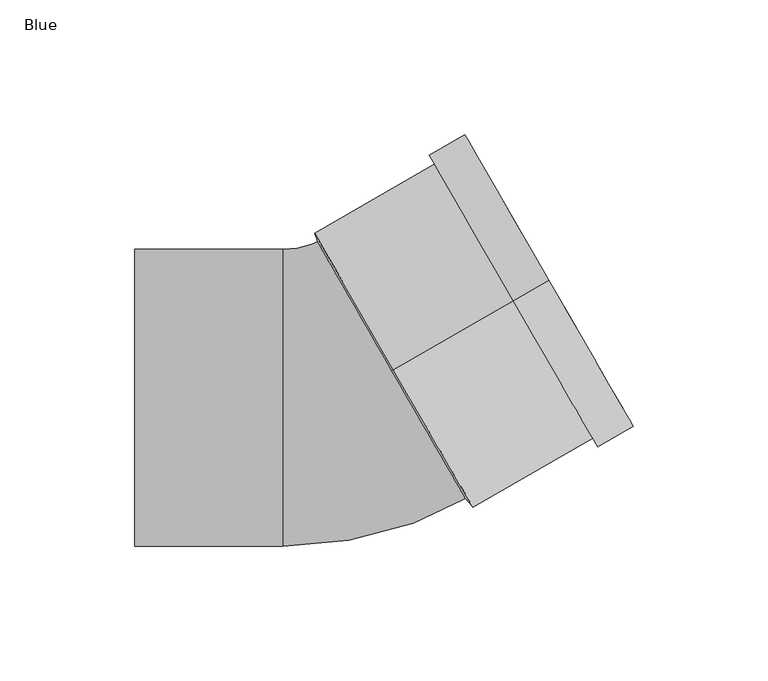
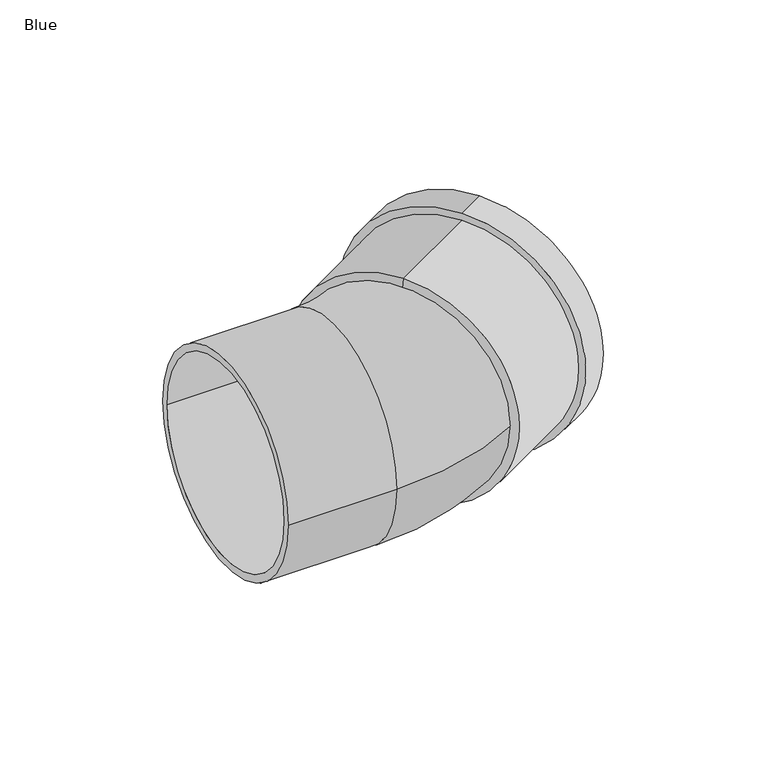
"""IFC4 building model written with IfcOpenShell, lengths in millimetres: pipe fitting geometry, AWADUKT PP SN10 Bend : Blue."""

from ifc_helpers import new_model, si_unit, point, frame, origin, place, context, project, spatial, polyline, circle_curve, ellipse_curve, trimmed, source, transform, mapped, element, save
from ifc_brep_helpers import plane_surface, cylinder_surface, revolved_surface, advanced_brep


def blue_8c50e030(model_context):
    return source(origin(), model_context, "Body", "AdvancedBrep", [
        advanced_brep(
        [(62.3538291, 36.0, 58.8), (62.3538291, 36.0, -58.8), (17.9106731, 10.340732, -58.8), (17.9106731, 10.340732, 58.8), (75.5174152, 43.6, 62.6), (75.5174152, 43.6, -62.6), (62.3538291, 36.0, -62.6), (62.3538291, 36.0, 62.6), (72.2265187, 41.7, 55.0), (72.2265187, 41.7, -55.0), (75.5174152, 43.6, -55.0), (75.5174152, 43.6, 55.0), (65.6447256, 37.9, 58.8), (65.6447256, 37.9, -58.8), (72.2265187, 41.7, -58.8), (72.2265187, 41.7, 58.8), (20.6720632, 11.9350213, 55.0), (20.6720632, 11.9350213, -55.0), (65.6447256, 37.9, -55.0), (65.6447256, 37.9, 55.0), (20.0917894, 11.6, 51.2), (20.0917894, 11.6, -51.2), (16.7501254, 9.6706894, 51.2), (16.7501254, 9.6706894, -51.2)],
        [
            (0, 1, circle_curve(frame((62.3538291, 36.0, 0.0), z_axis=(-0.866025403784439, -0.4999999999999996, 0.0), x_axis=(0.0, 0.0, -1.0)), 58.8)),
            (1, 2),
            (2, 3, circle_curve(frame((17.9106731, 10.340732, 0.0), z_axis=(0.866025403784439, 0.4999999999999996, 0.0), x_axis=(0.0, 0.0, -1.0)), 58.8)),
            (3, 0),
            (4, 5, circle_curve(frame((75.5174152, 43.6, 0.0), z_axis=(-0.866025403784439, -0.4999999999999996, 0.0), x_axis=(0.0, 0.0, -1.0)), 62.6)),
            (5, 6),
            (6, 7, circle_curve(frame((62.3538291, 36.0, 0.0), z_axis=(0.866025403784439, 0.4999999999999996, 0.0), x_axis=(0.0, 0.0, -1.0)), 62.6)),
            (7, 4),
            (8, 9, circle_curve(frame((72.2265187, 41.7, 0.0), z_axis=(-0.866025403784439, -0.4999999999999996, 0.0), x_axis=(0.0, 0.0, -1.0)), 55.0)),
            (9, 10),
            (10, 11, circle_curve(frame((75.5174152, 43.6, 0.0), z_axis=(0.866025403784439, 0.4999999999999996, 0.0), x_axis=(0.0, 0.0, -1.0)), 55.0)),
            (11, 8),
            (12, 13, circle_curve(frame((65.6447256, 37.9, 0.0), z_axis=(-0.866025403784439, -0.4999999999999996, 0.0), x_axis=(0.0, 0.0, -1.0)), 58.8)),
            (13, 14),
            (14, 15, circle_curve(frame((72.2265187, 41.7, 0.0), z_axis=(0.866025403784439, 0.4999999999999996, 0.0), x_axis=(0.0, 0.0, -1.0)), 58.8)),
            (15, 12),
            (16, 17, circle_curve(frame((20.6720632, 11.9350213, 0.0), z_axis=(-0.866025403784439, -0.4999999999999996, 0.0), x_axis=(0.0, 0.0, -1.0)), 55.0)),
            (17, 18),
            (18, 19, circle_curve(frame((65.6447256, 37.9, 0.0), z_axis=(0.866025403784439, 0.4999999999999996, 0.0), x_axis=(0.0, 0.0, -1.0)), 55.0)),
            (19, 16),
            (20, 21, circle_curve(frame((20.0917894, 11.6, 0.0), z_axis=(-0.866025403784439, -0.4999999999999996, 0.0), x_axis=(0.0, 0.0, -1.0)), 51.2)),
            (21, 17),
            (16, 20),
            (22, 23, circle_curve(frame((16.7501254, 9.6706894, 0.0), z_axis=(-0.866025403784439, -0.4999999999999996, 0.0), x_axis=(0.0, 0.0, -1.0)), 51.2)),
            (23, 21),
            (20, 22),
            (2, 23),
            (22, 3),
            (1, 0, circle_curve(frame((62.3538291, 36.0, 0.0), z_axis=(-0.866025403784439, -0.4999999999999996, 0.0), x_axis=(0.0, 0.0, 1.0)), 58.8)),
            (3, 2, circle_curve(frame((17.9106731, 10.340732, 0.0), z_axis=(0.866025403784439, 0.4999999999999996, 0.0), x_axis=(0.0, 0.0, 1.0)), 58.8)),
            (6, 7, circle_curve(frame((62.3538291, 36.0, 0.0), z_axis=(-0.866025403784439, -0.4999999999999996, 0.0), x_axis=(0.0, 0.0, 1.0)), 62.6)),
            (5, 4, circle_curve(frame((75.5174152, 43.6, 0.0), z_axis=(-0.866025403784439, -0.4999999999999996, 0.0), x_axis=(0.0, 0.0, 1.0)), 62.6)),
            (10, 11, circle_curve(frame((75.5174152, 43.6, 0.0), z_axis=(-0.866025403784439, -0.4999999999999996, 0.0), x_axis=(0.0, 0.0, 1.0)), 55.0)),
            (9, 8, circle_curve(frame((72.2265187, 41.7, 0.0), z_axis=(-0.866025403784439, -0.4999999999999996, 0.0), x_axis=(0.0, 0.0, 1.0)), 55.0)),
            (14, 15, circle_curve(frame((72.2265187, 41.7, 0.0), z_axis=(-0.866025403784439, -0.4999999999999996, 0.0), x_axis=(0.0, 0.0, 1.0)), 58.8)),
            (13, 12, circle_curve(frame((65.6447256, 37.9, 0.0), z_axis=(-0.866025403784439, -0.4999999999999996, 0.0), x_axis=(0.0, 0.0, 1.0)), 58.8)),
            (18, 19, circle_curve(frame((65.6447256, 37.9, 0.0), z_axis=(-0.866025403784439, -0.4999999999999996, 0.0), x_axis=(0.0, 0.0, 1.0)), 55.0)),
            (17, 16, circle_curve(frame((20.6720632, 11.9350213, 0.0), z_axis=(-0.866025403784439, -0.4999999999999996, 0.0), x_axis=(0.0, 0.0, 1.0)), 55.0)),
            (21, 20, circle_curve(frame((20.0917894, 11.6, 0.0), z_axis=(-0.866025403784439, -0.4999999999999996, 0.0), x_axis=(0.0, 0.0, 1.0)), 51.2)),
            (23, 22, circle_curve(frame((16.7501254, 9.6706894, 0.0), z_axis=(-0.866025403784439, -0.4999999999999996, 0.0), x_axis=(0.0, 0.0, 1.0)), 51.2)),
        ],
        [
            cylinder_surface(frame((20.0917894, 11.6, 0.0), z_axis=(0.866025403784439, 0.4999999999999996, 0.0), x_axis=(0.0, 0.0, -1.0)), 58.8),
            cylinder_surface(frame((20.0917894, 11.6, 0.0), z_axis=(0.866025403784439, 0.4999999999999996, 0.0), x_axis=(0.0, 0.0, -1.0)), 62.6),
            revolved_surface(polyline([(75.51741521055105, 43.599999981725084, -55.0), (72.22651870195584, 41.69999999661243, -55.0)]), (20.0917894, 11.6, 0.0), (0.866025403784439, 0.4999999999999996, 0.0)),
            revolved_surface(polyline([(72.22651870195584, 41.69999999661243, -58.8), (65.6447256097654, 37.89999998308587, -58.8)]), (20.0917894, 11.6, 0.0), (0.866025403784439, 0.4999999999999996, 0.0)),
            revolved_surface(polyline([(65.6447256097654, 37.89999998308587, -55.0), (20.672063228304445, 11.935021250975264, -55.0)]), (20.0917894, 11.6, 0.0), (0.866025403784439, 0.4999999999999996, 0.0)),
            revolved_surface(polyline([(20.6720632, 11.9350213, -55.0), (20.0917894, 11.6, -51.2)]), (20.0917894, 11.6, 0.0), (0.866025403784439, 0.4999999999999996, 0.0)),
            revolved_surface(polyline([(20.0917894, 11.6, -51.2), (16.7501254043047, 9.670689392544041, -51.2)]), (20.0917894, 11.6, 0.0), (0.866025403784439, 0.4999999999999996, 0.0)),
            revolved_surface(polyline([(16.7501254, 9.6706894, -51.2), (17.9106731, 10.340732, -58.8)]), (20.0917894, 11.6, 0.0), (0.866025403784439, 0.4999999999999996, 0.0)),
            cylinder_surface(frame((20.0917894, 11.6, 0.0), z_axis=(0.866025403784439, 0.4999999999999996, 0.0), x_axis=(0.0, 0.0, 1.0)), 58.8),
            plane_surface(frame((62.3538291, 36.0, 0.0), z_axis=(-0.866025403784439, -0.4999999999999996, 0.0), x_axis=(0.0, 0.0, 1.0))),
            cylinder_surface(frame((20.0917894, 11.6, 0.0), z_axis=(0.866025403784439, 0.4999999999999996, 0.0), x_axis=(0.0, 0.0, 1.0)), 62.6),
            plane_surface(frame((75.5174152, 43.6, 0.0), z_axis=(0.866025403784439, 0.4999999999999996, 0.0), x_axis=(0.0, 0.0, 1.0))),
            revolved_surface(polyline([(75.51741521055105, 43.599999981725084, 55.0), (72.22651870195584, 41.69999999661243, 55.0)]), (20.0917894, 11.6, 0.0), (0.866025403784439, 0.4999999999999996, 0.0)),
            plane_surface(frame((72.2265187, 41.7, 0.0), z_axis=(-0.866025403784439, -0.4999999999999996, 0.0), x_axis=(0.0, 0.0, 1.0))),
            revolved_surface(polyline([(72.22651870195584, 41.69999999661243, 58.8), (65.6447256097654, 37.89999998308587, 58.8)]), (20.0917894, 11.6, 0.0), (0.866025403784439, 0.4999999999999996, 0.0)),
            plane_surface(frame((65.6447256, 37.9, 0.0), z_axis=(0.866025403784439, 0.4999999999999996, 0.0), x_axis=(0.0, 0.0, 1.0))),
            revolved_surface(polyline([(65.6447256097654, 37.89999998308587, 55.0), (20.672063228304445, 11.935021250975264, 55.0)]), (20.0917894, 11.6, 0.0), (0.866025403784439, 0.4999999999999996, 0.0)),
            revolved_surface(polyline([(20.6720632, 11.9350213, 55.0), (20.0917894, 11.6, 51.2)]), (20.0917894, 11.6, 0.0), (0.866025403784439, 0.4999999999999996, 0.0)),
            revolved_surface(polyline([(20.0917894, 11.6, 51.2), (16.7501254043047, 9.670689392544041, 51.2)]), (20.0917894, 11.6, 0.0), (0.866025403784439, 0.4999999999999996, 0.0)),
            revolved_surface(polyline([(16.7501254, 9.6706894, 51.2), (17.9106731, 10.340732, 58.8)]), (20.0917894, 11.6, 0.0), (0.866025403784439, 0.4999999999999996, 0.0)),
        ],
        [
            (0, [[1, 2, 3, 4]]),
            (1, [[5, 6, 7, 8]]),
            (2, [[9, 10, 11, 12]]),
            (3, [[13, 14, 15, 16]]),
            (4, [[17, 18, 19, 20]]),
            (5, [[21, 22, -17, 23]]),
            (6, [[24, 25, -21, 26]]),
            (7, [[-3, 27, -24, 28]]),
            (8, [[29, -4, 30, -2]]),
            (9, [[31, -7], [-29, -1]]),
            (10, [[32, -8, -31, -6]]),
            (11, [[-32, -5], [33, -11]]),
            (12, [[34, -12, -33, -10]]),
            (13, [[35, -15], [-34, -9]]),
            (14, [[36, -16, -35, -14]]),
            (15, [[-36, -13], [37, -19]]),
            (16, [[38, -20, -37, -18]]),
            (17, [[39, -23, -38, -22]]),
            (18, [[40, -26, -39, -25]]),
            (19, [[-30, -28, -40, -27]]),
        ],
    ),
        advanced_brep(
        [(-78.0, -55.0, 0.0), (-78.0, 55.0, 0.0), (-78.0, -51.2, 0.0), (-78.0, 51.2, 0.0), (47.5917894, -36.0313972, 0.0), (-7.4082106, 59.2313972, 0.0), (45.6917894, -32.7405007, 0.0), (-5.5082106, 55.9405007, 0.0), (-23.2, -51.2, 0.0), (-23.2, 51.2, 0.0), (-23.2, -55.0, 0.0), (-23.2, 55.0, 0.0)],
        [
            (0, 1, circle_curve(frame((-78.0, 0.0, 0.0), z_axis=(-1.0, 0.0, 0.0), x_axis=(0.0, 1.0, 0.0)), 55.0)),
            (1, 0, circle_curve(frame((-78.0, 0.0, 0.0), z_axis=(-1.0, 0.0, 0.0), x_axis=(0.0, 1.0, 0.0)), 55.0)),
            (2, 3, circle_curve(frame((-78.0, 0.0, 0.0), z_axis=(1.0, 0.0, 0.0), x_axis=(0.0, 1.0, 0.0)), 51.2)),
            (3, 2, circle_curve(frame((-78.0, 0.0, 0.0), z_axis=(1.0, 0.0, 0.0), x_axis=(0.0, 1.0, 0.0)), 51.2)),
            (4, 5, circle_curve(frame((20.0917894, 11.6, 0.0), z_axis=(0.8660254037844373, 0.5000000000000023, 0.0), x_axis=(-0.5000000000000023, 0.8660254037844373, 0.0)), 55.0)),
            (5, 4, circle_curve(frame((20.0917894, 11.6, 0.0), z_axis=(0.8660254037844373, 0.5000000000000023, 0.0), x_axis=(-0.5000000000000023, 0.8660254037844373, 0.0)), 55.0)),
            (6, 7, circle_curve(frame((20.0917894, 11.6, 0.0), z_axis=(-0.8660254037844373, -0.5000000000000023, 0.0), x_axis=(-0.5000000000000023, 0.8660254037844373, 0.0)), 51.2)),
            (7, 6, circle_curve(frame((20.0917894, 11.6, 0.0), z_axis=(-0.8660254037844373, -0.5000000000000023, 0.0), x_axis=(-0.5000000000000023, 0.8660254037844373, 0.0)), 51.2)),
            (2, 8),
            (8, 9, circle_curve(frame((-23.2, 0.0, 0.0), z_axis=(1.0, 0.0, 0.0), x_axis=(0.0, 1.0, 0.0)), 51.2)),
            (9, 3),
            (9, 8, circle_curve(frame((-23.2, 0.0, 0.0), z_axis=(1.0, 0.0, 0.0), x_axis=(0.0, 1.0, 0.0)), 51.2)),
            (0, 10),
            (10, 11, circle_curve(frame((-23.2, 0.0, 0.0), z_axis=(-1.0, 0.0, 0.0), x_axis=(0.0, 1.0, 0.0)), 55.0)),
            (11, 1),
            (11, 10, circle_curve(frame((-23.2, 0.0, 0.0), z_axis=(-1.0, 0.0, 0.0), x_axis=(0.0, 1.0, 0.0)), 55.0)),
            (7, 9, circle_curve(frame((-23.2, 86.5835787, 0.0), z_axis=(0.0, 0.0, -1.0), x_axis=(0.0, -1.0, 0.0)), 35.3835787)),
            (8, 6, circle_curve(frame((-23.2, 86.5835787, 0.0), z_axis=(0.0, 0.0, 1.0), x_axis=(0.0, -1.0, 0.0)), 137.7835787)),
            (5, 11, circle_curve(frame((-23.2, 86.5835787, 0.0), z_axis=(0.0, 0.0, -1.0), x_axis=(0.0, -1.0, 0.0)), 31.5835787)),
            (10, 4, circle_curve(frame((-23.2, 86.5835787, 0.0), z_axis=(0.0, 0.0, 1.0), x_axis=(0.0, -1.0, 0.0)), 141.5835787)),
        ],
        [
            plane_surface(frame((-78.0, 0.0, 0.0), z_axis=(-1.0, 0.0, 0.0), x_axis=(0.0, 0.0, 1.0))),
            plane_surface(frame((20.0917894, 11.6, 0.0), z_axis=(0.8660254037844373, 0.5000000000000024, 0.0), x_axis=(0.0, 0.0, 1.0))),
            revolved_surface(polyline([(-23.200000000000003, 51.2, 0.0), (-78.0, 51.2, 0.0)]), (-78.0, 0.0, 0.0), (1.0, 0.0, 0.0)),
            cylinder_surface(frame((-78.0, 0.0, 0.0), z_axis=(-1.0, 0.0, 0.0), x_axis=(0.0, 1.0, 0.0)), 55.0),
            revolved_surface(trimmed(ellipse_curve(frame((-23.2, 0.0, 0.0), z_axis=(1.0, 0.0, 0.0), x_axis=(0.0, 1.0, 0.0)), 51.2, 51.2), [point((-23.2, -51.2, 0.0))], [point((-23.2, 51.2, 0.0))], True, "CARTESIAN"), (-23.2, 86.5835787, 0.0), (0.0, 0.0, 1.0)),
            revolved_surface(trimmed(ellipse_curve(frame((-23.2, 0.0, 0.0), z_axis=(1.0, 0.0, 0.0), x_axis=(0.0, 1.0, 0.0)), 51.2, 51.2), [point((-23.2, 51.2, 0.0))], [point((-23.2, -51.2, 0.0))], True, "CARTESIAN"), (-23.2, 86.5835787, 0.0), (0.0, 0.0, 1.0)),
            revolved_surface(trimmed(ellipse_curve(frame((-23.2, 0.0, 0.0), z_axis=(-1.0, 0.0, 0.0), x_axis=(0.0, 1.0, 0.0)), 55.0, 55.0), [point((-23.2, -55.0, 0.0))], [point((-23.2, 55.0, 0.0))], True, "CARTESIAN"), (-23.2, 86.5835787, 0.0), (0.0, 0.0, 1.0)),
            revolved_surface(trimmed(ellipse_curve(frame((-23.2, 0.0, 0.0), z_axis=(-1.0, 0.0, 0.0), x_axis=(0.0, 1.0, 0.0)), 55.0, 55.0), [point((-23.2, 55.0, 0.0))], [point((-23.2, -55.0, 0.0))], True, "CARTESIAN"), (-23.2, 86.5835787, 0.0), (0.0, 0.0, 1.0)),
        ],
        [
            (0, [[1, 2], [3, 4]]),
            (1, [[5, 6], [7, 8]]),
            (2, [[-3, 9, 10, 11]]),
            (2, [[-4, -11, 12, -9]]),
            (3, [[-1, 13, 14, 15]]),
            (3, [[-2, -15, 16, -13]]),
            (4, [[17, -10, 18, -8]]),
            (5, [[-18, -12, -17, -7]]),
            (6, [[19, -14, 20, -6]]),
            (7, [[-20, -16, -19, -5]]),
        ],
    ),
    ])


if __name__ == "__main__":
    model = new_model("IFC4")
    model_context = context("Model", 3, world=origin())
    ifc_project = project(units=[si_unit("LENGTHUNIT", "METRE", prefix="MILLI")], contexts=[model_context])
    site = spatial("IfcSite", under=ifc_project)
    building = spatial("IfcBuilding", under=site)
    placement = place(None, origin())
    blue_shape = blue_8c50e030(model_context)
    element("IfcPipeFitting", 1, ObjectType="AWADUKT PP SN10 Bend : Blue", at=placement, inside=building, context=model_context, shape_type="MappedRepresentation", body=[
        mapped(blue_shape, transform((0.0, 0.0, 0.0), x_axis=(1.0, 0.0, 0.0), y_axis=(0.0, 1.0, 0.0), z_axis=(0.0, 0.0, 1.0))),
    ])
    save(model, "model.ifc")
